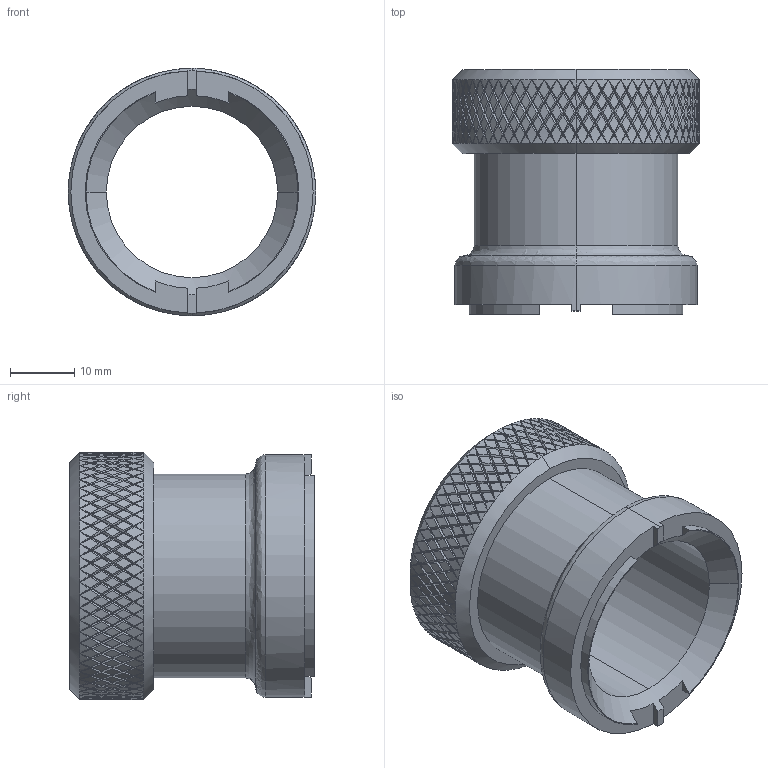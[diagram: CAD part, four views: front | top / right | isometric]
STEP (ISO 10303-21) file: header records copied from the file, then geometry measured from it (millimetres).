
FILE_DESCRIPTION (( 'STEP AP214' ), '1' );
FILE_NAME ('OW-150-131-SALES.STEP', '2013-05-29T15:36:22', ( 'Eng-4' ), ( 'Hewlett-Packard Company' ), 'SwSTEP 2.0', 'SolidWorks 2013', '' );
FILE_SCHEMA (( 'AUTOMOTIVE_DESIGN' ));
Length unit declared in the file: inch
Products named in the file (1): OW-150-131-SALES
Bounding box: 38.48 x 38.1 x 38.48 mm (x, y, z)
Volume: 15518.3 mm3; surface area: 8908.2 mm2
Topology: 1 solids, 1 shells, 1239 faces, 3814 edges, 2578 vertices
Faces by surface type: plane 857, cylinder 372, cone 6, bspline 4
Entity records: 42277 total; most frequent: CARTESIAN_POINT 12597, ORIENTED_EDGE 7628, DIRECTION 4875, EDGE_CURVE 3814, VERTEX_POINT 2578, LINE 1955, VECTOR 1955, AXIS2_PLACEMENT_3D 1460
